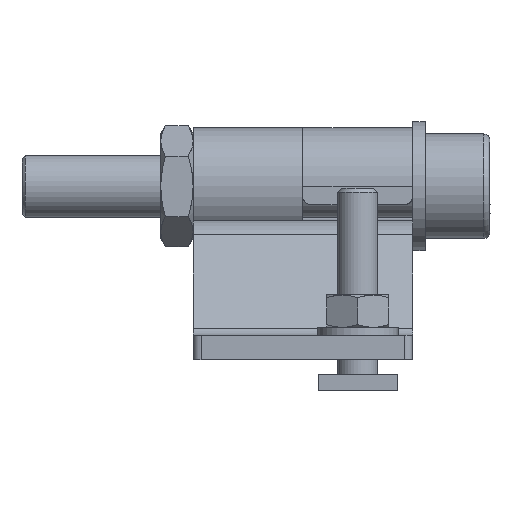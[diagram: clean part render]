
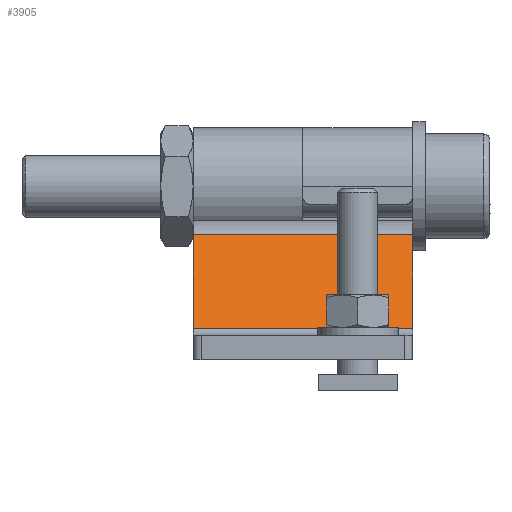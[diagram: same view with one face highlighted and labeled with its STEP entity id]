
A CAD part, front view. The second image highlights one B-rep face of the part: STEP entity #3905.
In plain terms, the highlighted planar face has unit normal (0, -0.707, 0.707).
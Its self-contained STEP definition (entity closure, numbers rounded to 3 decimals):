
#3905=ADVANCED_FACE('',(#4355),#4139,.T.);
#4139=PLANE('',#11563);
#4355=FACE_OUTER_BOUND('',#4694,.T.);
#4694=EDGE_LOOP('',(#6296,#6297,#6298,#6299));
#6296=ORIENTED_EDGE('',*,*,#9305,.T.);
#6297=ORIENTED_EDGE('',*,*,#9306,.T.);
#6298=ORIENTED_EDGE('',*,*,#9307,.T.);
#6299=ORIENTED_EDGE('',*,*,#9308,.T.);
#7800=VERTEX_POINT('',#17577);
#7801=VERTEX_POINT('',#17578);
#7802=VERTEX_POINT('',#17580);
#7803=VERTEX_POINT('',#17582);
#9305=EDGE_CURVE('',#7800,#7801,#10319,.T.);
#9306=EDGE_CURVE('',#7801,#7802,#10320,.T.);
#9307=EDGE_CURVE('',#7802,#7803,#10321,.T.);
#9308=EDGE_CURVE('',#7803,#7800,#10322,.T.);
#10319=LINE('',#17576,#10951);
#10320=LINE('',#17579,#10952);
#10321=LINE('',#17581,#10953);
#10322=LINE('',#17583,#10954);
#10951=VECTOR('',#13026,1.);
#10952=VECTOR('',#13027,1.);
#10953=VECTOR('',#13028,1.);
#10954=VECTOR('',#13029,1.);
#11563=AXIS2_PLACEMENT_3D('',#17584,#13030,#13031);
#13026=DIRECTION('',(-1.,0.,0.));
#13027=DIRECTION('',(0.,-0.707,-0.707));
#13028=DIRECTION('',(1.,0.,0.));
#13029=DIRECTION('',(0.,0.707,0.707));
#13030=DIRECTION('',(0.,-0.707,0.707));
#13031=DIRECTION('',(-1.,0.,0.));
#17576=CARTESIAN_POINT('',(10.5,-451.147,15.453));
#17577=CARTESIAN_POINT('',(24.1,-451.147,15.453));
#17578=CARTESIAN_POINT('',(-3.1,-451.147,15.453));
#17579=CARTESIAN_POINT('',(-3.1,-456.934,9.666));
#17580=CARTESIAN_POINT('',(-3.1,-462.721,3.879));
#17581=CARTESIAN_POINT('',(10.5,-462.721,3.879));
#17582=CARTESIAN_POINT('',(24.1,-462.721,3.879));
#17583=CARTESIAN_POINT('',(24.1,-456.934,9.666));
#17584=CARTESIAN_POINT('',(24.1,-451.147,15.453));
